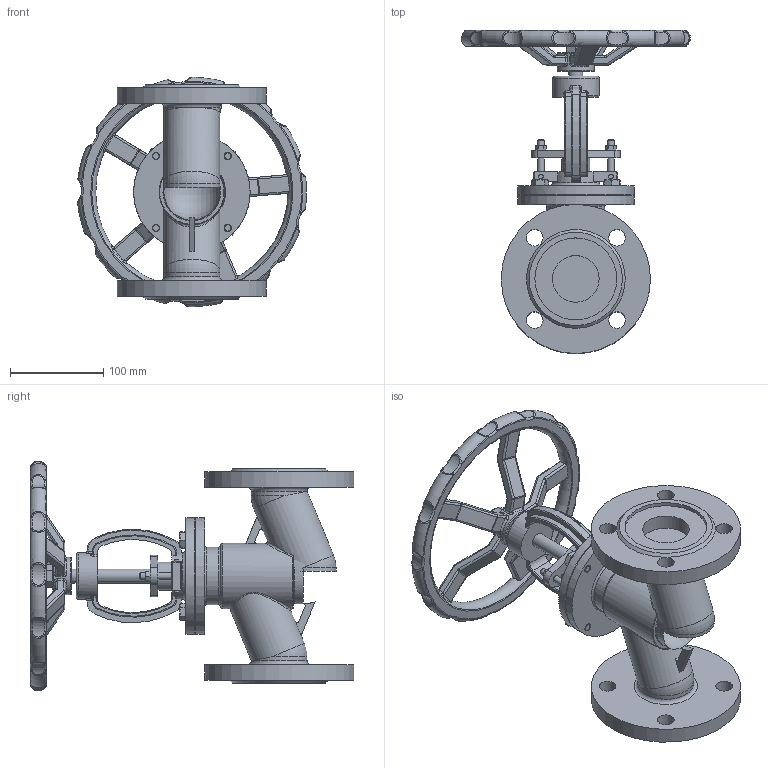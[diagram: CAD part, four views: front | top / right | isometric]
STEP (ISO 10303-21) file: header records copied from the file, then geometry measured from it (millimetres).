
FILE_DESCRIPTION(('STEP AP203'), '1');
FILE_NAME('VSO3131M-F-S 孰囡囗 玎镱痦 DN.ru 捏50 畜40', '2026-04-14T17:50:02', ('R2D2'), (''), 'C3D Converter', 'C3D Toolkit', '');
FILE_SCHEMA(('CONFIG_CONTROL_DESIGN'));
Length unit declared in the file: millimetre
Products named in the file (1): VSO3131M-F-S
Bounding box: 245.66 x 346.92 x 246.28 mm (x, y, z)
Volume: 2091949.7 mm3; surface area: 309132.3 mm2
Topology: 1 solids, 1 shells, 1008 faces, 2416 edges, 1438 vertices
Faces by surface type: plane 294, cylinder 219, torus 152, extrusion 124, bspline 76, sphere 72, cone 71
Full cylindrical faces by diameter (mm): 5 x4, 7 x4, 8 x4, 15 x3, 16 x4, 18 x9, 30 x1, 40 x1, 50 x4, 60 x5, 62 x1, 70 x1, 88 x2, 125 x2, 160 x2
Entity records: 65845 total; most frequent: CARTESIAN_POINT 35795, ORIENTED_EDGE 4626, DIRECTION 4251, EDGE_CURVE 2313, AXIS2_PLACEMENT_3D 1695, VERTEX_POINT 1430, EDGE_LOOP 1163, FACE_BOUND 1051
